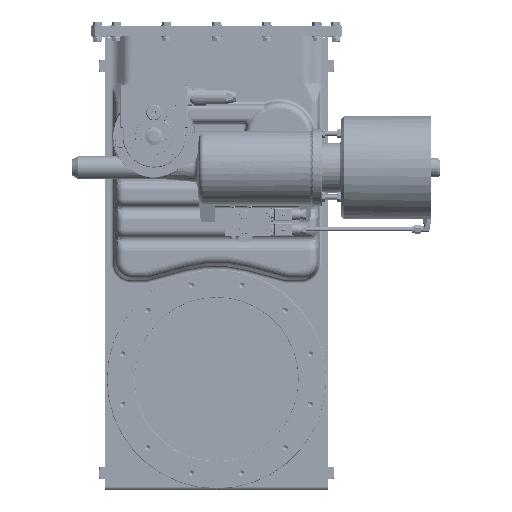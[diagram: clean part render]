
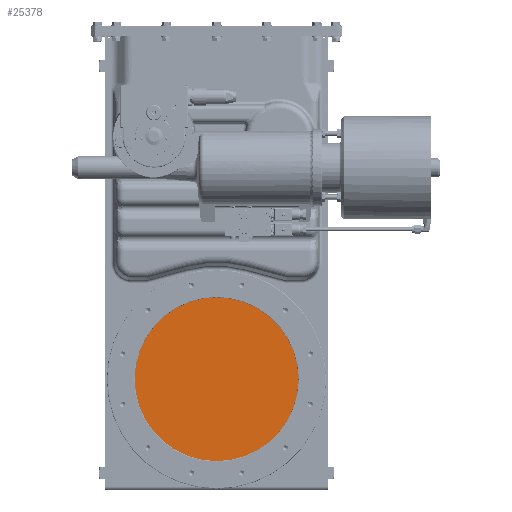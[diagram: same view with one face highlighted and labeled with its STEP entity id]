
A CAD part, top view. The second image highlights one B-rep face of the part: STEP entity #25378.
In plain terms, the highlighted planar face has unit normal (0, 0, 1).
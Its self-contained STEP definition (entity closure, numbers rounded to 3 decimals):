
#21655=PLANE('',#65207);
#23052=FACE_OUTER_BOUND('',#32099,.T.);
#25378=ADVANCED_FACE('',(#23052),#21655,.T.);
#32099=EDGE_LOOP('',(#36734));
#36734=ORIENTED_EDGE('',*,*,#55362,.T.);
#50582=VERTEX_POINT('',#86487);
#55362=EDGE_CURVE('',#50582,#50582,#62287,.T.);
#62287=CIRCLE('',#65204,130.55);
#65204=AXIS2_PLACEMENT_3D('',#86486,#71370,#71371);
#65207=AXIS2_PLACEMENT_3D('',#86491,#71376,#71377);
#71370=DIRECTION('',(0.,0.,1.));
#71371=DIRECTION('',(0.,1.,0.));
#71376=DIRECTION('',(0.,0.,1.));
#71377=DIRECTION('',(0.,-1.,0.));
#86486=CARTESIAN_POINT('',(0.,-546.85,19.));
#86487=CARTESIAN_POINT('',(0.,-416.3,19.));
#86491=CARTESIAN_POINT('',(0.,-546.85,19.));
